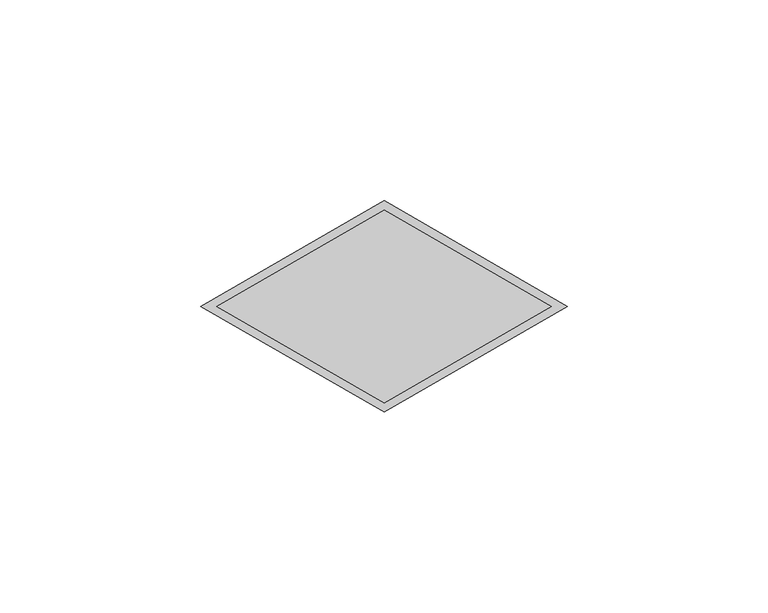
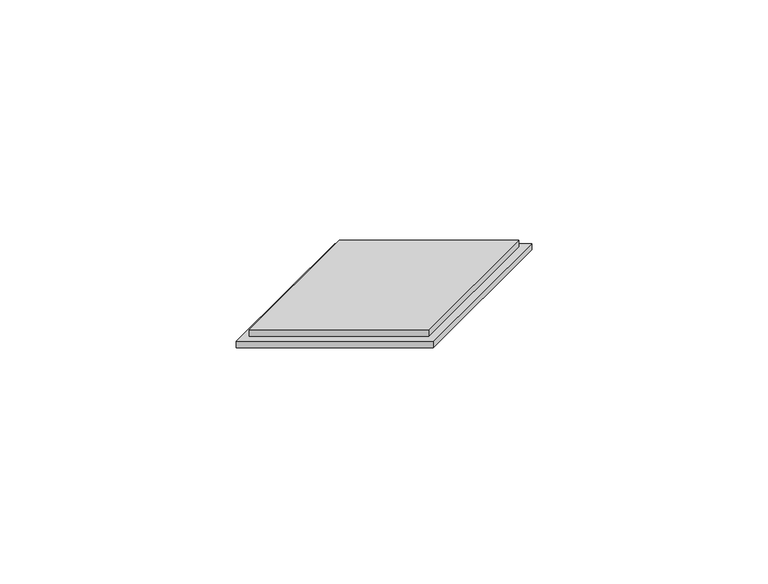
"""IFC4 building model written with IfcOpenShell, lengths in millimetres: proxy geometry, PBSHOP - CUBICA ARGENTO 4,8X8,3 : CUBICA ARGENTO - POSIÇÃO 03."""

from ifc_helpers import new_model, si_unit, frame, origin, origin_with_axes, place, context, project, spatial, polyline, outline, extrude, source, transform, mapped, element, save


def generic_models_9bf73f6f(model_context):
    return source(origin(), model_context, "Body", "SweptSolid", [
        extrude(outline(polyline([(0.0, 26.3094011), (45.5692194, 0.0), (0.0, -26.3094011), (-45.5692194, 0.0), (0.0, 26.3094011)])), origin_with_axes(), (0.0, 0.0, 1.0), 2.0),
        extrude(outline(polyline([(0.0, 24.0), (41.5692194, 0.0), (0.0, -24.0), (-41.5692194, 0.0), (0.0, 24.0)])), frame((0.0, 0.0, 2.0), z_axis=(0.0, 0.0, 1.0), x_axis=(1.0, 0.0, 0.0)), (0.0, 0.0, 1.0), 2.5),
    ])


if __name__ == "__main__":
    model = new_model("IFC4")
    model_context = context("Model", 3, world=origin())
    ifc_project = project(units=[si_unit("LENGTHUNIT", "METRE", prefix="MILLI")], contexts=[model_context])
    site = spatial("IfcSite", under=ifc_project)
    building = spatial("IfcBuilding", under=site)
    placement = place(None, origin())
    generic_models_shape = generic_models_9bf73f6f(model_context)
    element("IfcBuildingElementProxy", 1, Name="PBSHOP - CUBICA ARGENTO 4,8X8,3 : CUBICA ARGENTO - POSIÇÃO 03", ObjectType="PBSHOP - CUBICA ARGENTO 4,8X8,3 : CUBICA ARGENTO - POSIÇÃO 03", at=placement, inside=building, context=model_context, shape_type="MappedRepresentation", body=[
        mapped(generic_models_shape, transform((0.0, 0.0, 0.0), x_axis=(1.0, 0.0, 0.0), y_axis=(0.0, 1.0, 0.0), z_axis=(0.0, 0.0, 1.0))),
    ])
    save(model, "model.ifc")
